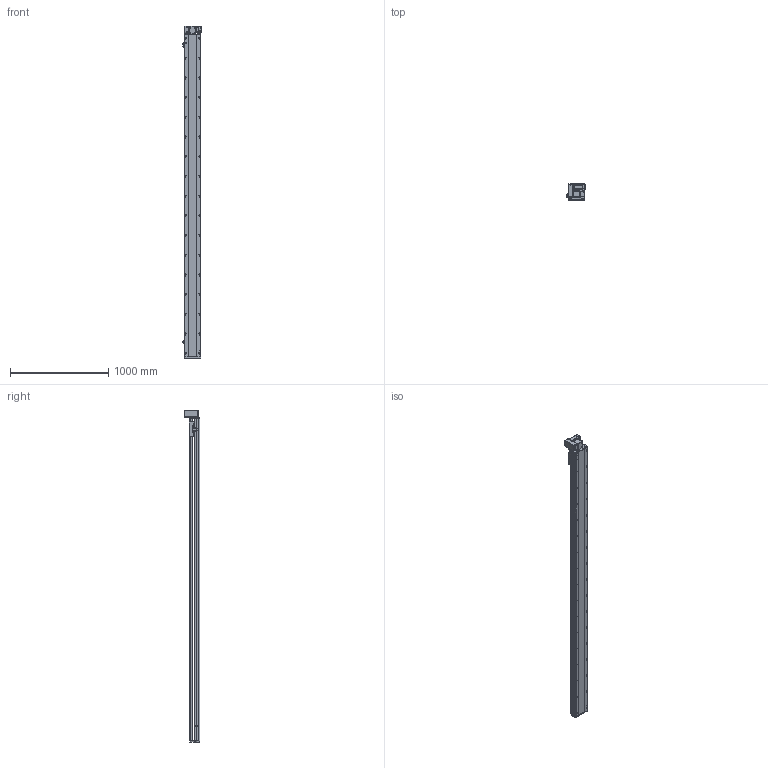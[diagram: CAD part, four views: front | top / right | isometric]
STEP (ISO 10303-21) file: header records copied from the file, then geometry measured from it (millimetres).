
FILE_DESCRIPTION (( 'STEP AP214' ), '1' );
FILE_NAME ('RTB17S-XX-3000-LW-M40-C4.STEP', '2025-12-11T07:20:31', ( '' ), ( '' ), 'SwSTEP 2.0', 'SolidWorks 2018', '' );
FILE_SCHEMA (( 'AUTOMOTIVE_DESIGN' ));
Length unit declared in the file: millimetre
Products named in the file (14): RTB14-L-017P^RTB17S-LW-々湍釱蚾饜-400W_RTB17S-XX-XX-LW-M40-C4; RTH13-BL-012覜茼え俋离^RTB17S-XX-XX-LW-M40-C4; RTB17S-L-007奻裔^RTB17S-XX-XX-LW-M40-C4; RTB14-L-005P--轴承塑胶压盖^RTB17S-LW-皮带座装配-400W_RTB17S-XX-XX-LW-M40-C4; RTB17S-LW-々湍釱蚾饜-400W^RTB17S-XX-XX-LW-M40-C4; RTB17-R-011菁釱^RTB17S-XX-XX-LW-M40-C4; RTB17S-L-001耜醱啣^RTB17S-XX-XX-LW-M40-C4; RTB14-L-008-M20--萇儂啣^RTB17S-LW-々湍釱蚾饜-400W_RTB17S-XX-XX-LW-M40-C4; 400W侜督萇儂^RTB17S-XX-XX-LW-M40-C4; OMRON EE-SX672 传感器^RTB17S-XX-XX-LW-M40-C4; RTB17S-XX-3000-LW-M40-C4; RTB17S-L-004佪裝蹟譫蟀諉釱^RTB17S-XX-XX-LW-M40-C4; RTB17S-L-014-T20--々湍釱^RTB17S-LW-々湍釱蚾饜-400W_RTB17S-XX-XX-LW-M40-C4; RTB14-L-018P^RTB17S-LW-々湍釱蚾饜-400W_RTB17S-XX-XX-LW-M40-C4
Assembly tree (16 placements, depth 3):
  RTB17S-XX-3000-LW-M40-C4
    RTB17-R-011菁釱^RTB17S-XX-XX-LW-M40-C4
    RTB17S-L-007奻裔^RTB17S-XX-XX-LW-M40-C4
    OMRON EE-SX672 传感器^RTB17S-XX-XX-LW-M40-C4  x3
    RTB17S-L-001耜醱啣^RTB17S-XX-XX-LW-M40-C4
    400W侜督萇儂^RTB17S-XX-XX-LW-M40-C4
    RTB17S-L-004佪裝蹟譫蟀諉釱^RTB17S-XX-XX-LW-M40-C4
    RTH13-BL-012覜茼え俋离^RTB17S-XX-XX-LW-M40-C4
    RTB17S-LW-々湍釱蚾饜-400W^RTB17S-XX-XX-LW-M40-C4
      RTB17S-L-014-T20--々湍釱^RTB17S-LW-々湍釱蚾饜-400W_RTB17S-XX-XX-LW-M40-C4
      RTB14-L-005P--轴承塑胶压盖^RTB17S-LW-皮带座装配-400W_RTB17S-XX-XX-LW-M40-C4
      RTB14-L-008-M20--萇儂啣^RTB17S-LW-々湍釱蚾饜-400W_RTB17S-XX-XX-LW-M40-C4
      RTB14-L-017P^RTB17S-LW-々湍釱蚾饜-400W_RTB17S-XX-XX-LW-M40-C4  x2
      RTB14-L-018P^RTB17S-LW-々湍釱蚾饜-400W_RTB17S-XX-XX-LW-M40-C4
Bounding box: 186 x 160.5 x 3372.5 mm (x, y, z)
Volume: 28686796 mm3; surface area: 3275748.3 mm2
Topology: 15 solids, 15 shells, 2365 faces, 6627 edges, 4329 vertices
Faces by surface type: plane 1088, cylinder 829, bspline 301, cone 139, torus 8
Entity records: 70313 total; most frequent: CARTESIAN_POINT 20032, ORIENTED_EDGE 10098, DIRECTION 9296, EDGE_CURVE 5049, VERTEX_POINT 3317, AXIS2_PLACEMENT_3D 3247, LINE 2802, VECTOR 2802
